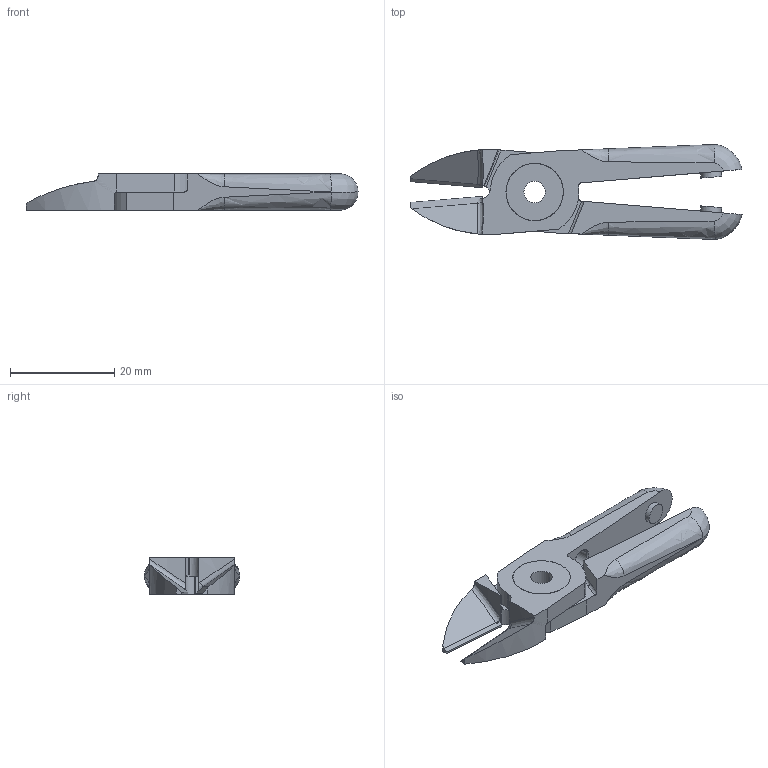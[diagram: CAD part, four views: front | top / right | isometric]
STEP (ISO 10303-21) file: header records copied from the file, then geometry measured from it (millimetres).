
FILE_DESCRIPTION (( 'STEP AP214' ), '1' );
FILE_NAME ('N5BJ.STEP', '2019-11-29T02:29:52', ( '微软用户' ), ( '微软中国' ), 'SwSTEP 2.0', 'SolidWorks 2016', '' );
FILE_SCHEMA (( 'AUTOMOTIVE_DESIGN' ));
Length unit declared in the file: millimetre
Products named in the file (4): BR2; BR1; BS; N5BJ
Assembly tree (3 placements, depth 2):
  N5BJ
    BS
    BR1
    BR2
Bounding box: 63.69 x 18.24 x 7 mm (x, y, z)
Volume: 4204.5 mm3; surface area: 3856.3 mm2
Topology: 3 solids, 3 shells, 108 faces, 287 edges, 181 vertices
Faces by surface type: bspline 49, plane 36, cylinder 19, cone 4
Entity records: 7337 total; most frequent: CARTESIAN_POINT 4985, ORIENTED_EDGE 558, DIRECTION 318, EDGE_CURVE 279, VERTEX_POINT 181, VECTOR 120, LINE 120, EDGE_LOOP 118
